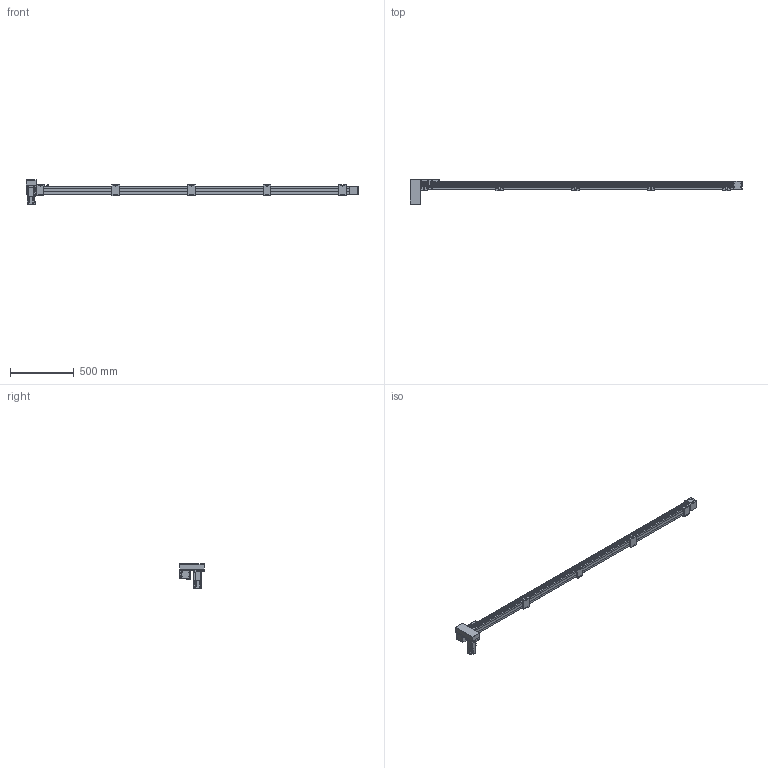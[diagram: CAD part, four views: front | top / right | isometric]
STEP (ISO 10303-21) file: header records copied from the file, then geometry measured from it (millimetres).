
FILE_DESCRIPTION(/* description */ ('STEP AP214'),/* implementation_level */ '2;1');
FILE_NAME(/* name */ 'SK60-P13-S2300-RD-T40-C1-N(0)',/* time_stamp */ '2023-04-06T04:56:51+02:00',/* author */ ('License CC BY-ND 4.0'),/* organization */ ('CADENAS'),/* preprocessor_version */ 'ST-DEVELOPER v19.3',/* originating_system */ 'PARTsolutions',/* authorisation */ ' ');
FILE_SCHEMA (('AUTOMOTIVE_DESIGN {1 0 10303 214 3 1 1}'));
Length unit declared in the file: millimetre
Products named in the file (10): SK60-P13-S2300-RD-T40-C1-N(0); PSC140-sensor; SK60-S450_seat; SK60-S450-BL-C1_slider; SK60_body3; SK60_body6; SK60-BL_body2; T40-p1; SK60-RD_fb; SK60-S2300-RD-C1_body
Assembly tree (19 placements, depth 2):
  SK60-P13-S2300-RD-T40-C1-N(0)
    PSC140-sensor  x3
    SK60-S450_seat  x5
    SK60-S450-BL-C1_slider
    SK60_body3  x3
    SK60_body6  x2
    SK60-BL_body2  x2
    T40-p1
    SK60-RD_fb
    SK60-S2300-RD-C1_body
Bounding box: 2605.5 x 199 x 189.7 mm (x, y, z)
Volume: 10041466.2 mm3; surface area: 1190005.6 mm2
Topology: 19 solids, 19 shells, 942 faces, 2342 edges, 1541 vertices
Faces by surface type: plane 596, cylinder 310, cone 34, torus 2
Full cylindrical faces by diameter (mm): 2.8 x3, 3.3 x4, 4 x2, 4.5 x30, 4.6 x3, 4.917 x28, 5 x6, 5.478 x4, 5.5 x31, 6.5 x10, 7 x2, 8 x4, 8.5 x4, 9.988 x4, 10 x20, 14 x1, 47 x3, 50 x2
Entity records: 18679 total; most frequent: DIRECTION 3190, CARTESIAN_POINT 3153, ORIENTED_EDGE 2940, EDGE_CURVE 1470, AXIS2_PLACEMENT_3D 1071, LINE 1048, VECTOR 1048, VERTEX_POINT 1034
